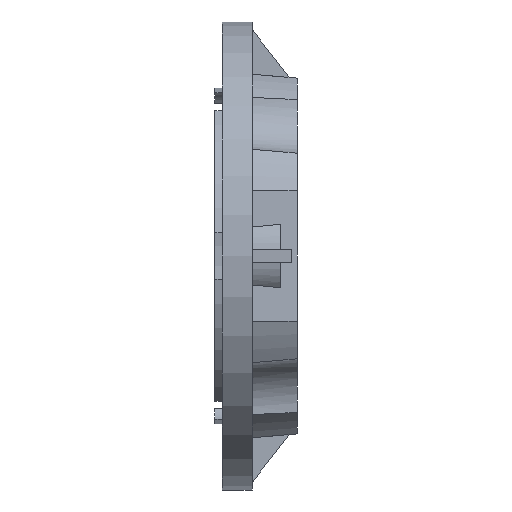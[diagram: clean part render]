
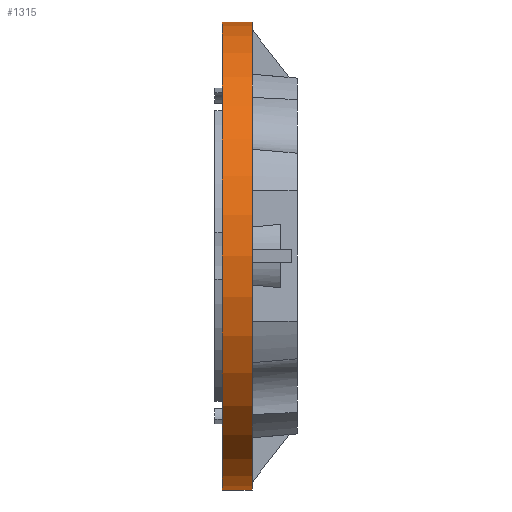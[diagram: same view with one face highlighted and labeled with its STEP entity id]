
A CAD part, front view. The second image highlights one B-rep face of the part: STEP entity #1315.
In plain terms, the highlighted cylindrical face has radius 125 mm (diameter 250 mm), a partial arc.
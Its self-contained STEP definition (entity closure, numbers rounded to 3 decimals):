
#1315=ADVANCED_FACE('',(#1479),#3736,.T.);
#1479=FACE_OUTER_BOUND('',#1643,.T.);
#1643=EDGE_LOOP('',(#2420,#2421,#2422,#2423));
#2420=ORIENTED_EDGE('',*,*,#2833,.T.);
#2421=ORIENTED_EDGE('',*,*,#2663,.T.);
#2422=ORIENTED_EDGE('',*,*,#2661,.T.);
#2423=ORIENTED_EDGE('',*,*,#2831,.F.);
#2661=EDGE_CURVE('',#3637,#3667,#2946,.T.);
#2663=EDGE_CURVE('',#3450,#3637,#3297,.T.);
#2831=EDGE_CURVE('',#3666,#3667,#3407,.T.);
#2833=EDGE_CURVE('',#3666,#3450,#3003,.T.);
#2946=TRIMMED_CURVE($,#3102,(#5888),(#5889),.T.,.CARTESIAN.);
#3003=TRIMMED_CURVE($,#3159,(#6309),(#6310),.T.,.CARTESIAN.);
#3102=CIRCLE('',#4221,125.);
#3159=CIRCLE('',#4278,125.);
#3297=B_SPLINE_CURVE_WITH_KNOTS('',1,(#5893,#5894),.UNSPECIFIED.,.F.,.F.,
(2,2),(1.6,17.6),.UNSPECIFIED.);
#3407=B_SPLINE_CURVE_WITH_KNOTS('',1,(#6303,#6304),.UNSPECIFIED.,.F.,.F.,
(2,2),(1.6,17.6),.UNSPECIFIED.);
#3450=VERTEX_POINT('',#5135);
#3637=VERTEX_POINT('',#5322);
#3666=VERTEX_POINT('',#5351);
#3667=VERTEX_POINT('',#5352);
#3736=CYLINDRICAL_SURFACE('',#4130,125.);
#4130=AXIS2_PLACEMENT_3D('',#5092,#4425,$);
#4221=AXIS2_PLACEMENT_3D($,#5887,#4598,#4599);
#4278=AXIS2_PLACEMENT_3D($,#6308,#4712,#4713);
#4425=DIRECTION('',(1.,0.,0.));
#4598=DIRECTION('',(-1.,0.,0.));
#4599=DIRECTION('',(0.,0.,-1.));
#4712=DIRECTION('',(1.,0.,0.));
#4713=DIRECTION('',(0.,0.,1.));
#5092=CARTESIAN_POINT('',(32.,0.,0.));
#5135=CARTESIAN_POINT('',(24.,0.,-125.));
#5322=CARTESIAN_POINT('',(40.,0.,-125.));
#5351=CARTESIAN_POINT('',(24.,0.,125.));
#5352=CARTESIAN_POINT('',(40.,0.,125.));
#5887=CARTESIAN_POINT('',(40.,0.,0.));
#5888=CARTESIAN_POINT('',(40.,0.,-125.));
#5889=CARTESIAN_POINT('',(40.,0.,125.));
#5893=CARTESIAN_POINT('',(24.,0.,-125.));
#5894=CARTESIAN_POINT('',(40.,0.,-125.));
#6303=CARTESIAN_POINT('',(24.,0.,125.));
#6304=CARTESIAN_POINT('',(40.,0.,125.));
#6308=CARTESIAN_POINT('',(24.,0.,0.));
#6309=CARTESIAN_POINT('',(24.,0.,125.));
#6310=CARTESIAN_POINT('',(24.,0.,-125.));
